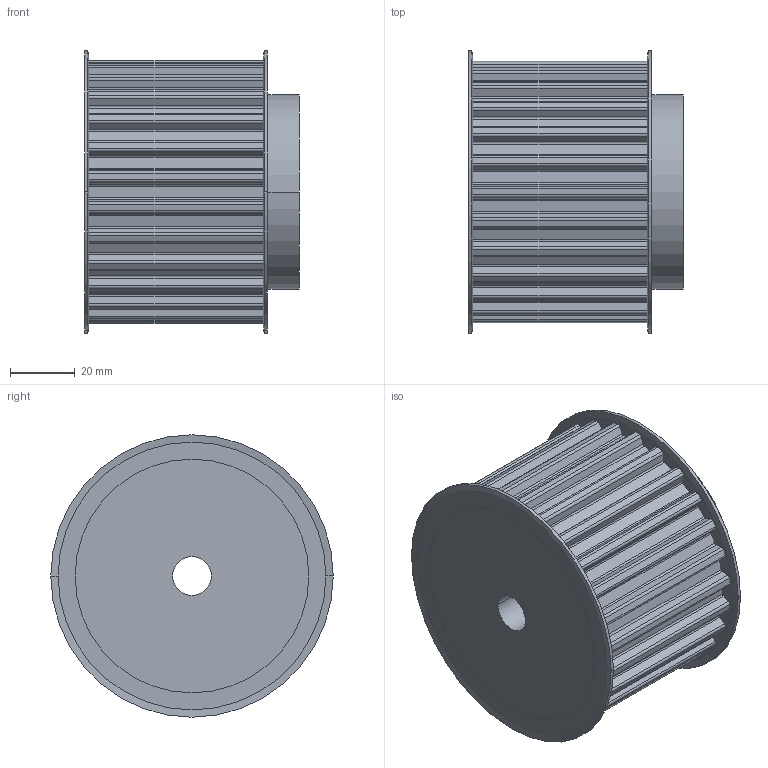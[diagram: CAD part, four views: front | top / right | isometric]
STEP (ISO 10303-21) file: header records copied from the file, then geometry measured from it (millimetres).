
FILE_DESCRIPTION( ( '' ), '1' );
FILE_NAME( 'C:/Users/Stangenbergd/Documents/CAD_Step/1/16452600.stp', '2021-10-19T09:01:27', ( '' ), ( '' ), ' ', ' ', ' ' );
FILE_SCHEMA( ( 'CONFIG_CONTROL_DESIGN' ) );
Length unit declared in the file: millimetre
Products named in the file (1): 1
Bounding box: 66.17 x 87 x 87 mm (x, y, z)
Volume: 284481.6 mm3; surface area: 38450.7 mm2
Topology: 1 solids, 1 shells, 235 faces, 676 edges, 448 vertices
Faces by surface type: cylinder 142, plane 85, cone 8
Entity records: 7866 total; most frequent: DIRECTION 1440, CARTESIAN_POINT 1360, ORIENTED_EDGE 1352, EDGE_CURVE 676, AXIS2_PLACEMENT_3D 528, VERTEX_POINT 448, LINE 384, VECTOR 384
